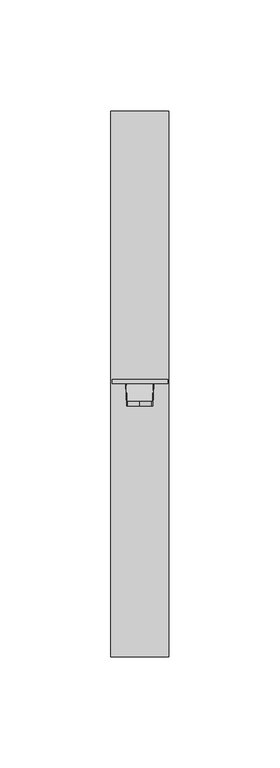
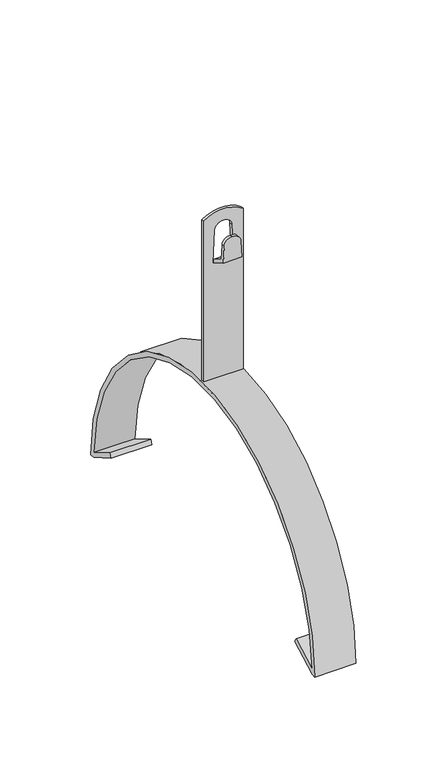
"""IFC4 building model written with IfcOpenShell, lengths in millimetres: proxy geometry, КНС_ЗажимКоньковыйРегулируемый_DKC : ND2203CU_Медь_Увеличенный."""

import ifcopenshell
import ifcopenshell.guid

model = None  # the IFC model being written
_history = None  # IfcOwnerHistory: only IFC2X3 demands one
_inside = {}  # id of a spatial element -> (the spatial element, [elements in it])
_under = {}  # id of a project, library or spatial element -> (it, [spatial elements below it])
_declared = {}  # id of a project -> (the project, [libraries it declares])
_typed = {}  # id of a type object -> (the type object, [elements of that type])
_made_of = {}  # id of a material, layer set ... -> (it, [elements and type objects made of it])


def new_model(schema):
    """Start an empty IFC model of exactly this schema.

    Asked for "IFC4X3", IfcOpenShell would pick the latest addendum, in which some entities
    have other attributes; the version numbers below select the first issue.
    IFC2X3 requires an IfcOwnerHistory on every rooted entity: one is made here for all.
    """
    global model, _history
    if schema == "IFC4X3":
        model = ifcopenshell.file(schema_version=(4, 3, 0, 0))
    else:
        model = ifcopenshell.file(schema=schema)
    _inside.clear()
    _under.clear()
    _declared.clear()
    _typed.clear()
    _made_of.clear()
    _history = None
    if model.schema == "IFC2X3":
        org = make("IfcOrganization", Name="unknown")
        user = make(
            "IfcPersonAndOrganization",
            ThePerson=make("IfcPerson", FamilyName="unknown"),
            TheOrganization=org,
        )
        app = make(
            "IfcApplication",
            ApplicationDeveloper=org,
            Version="unknown",
            ApplicationFullName="unknown",
            ApplicationIdentifier="unknown",
        )
        _history = make(
            "IfcOwnerHistory",
            OwningUser=user,
            OwningApplication=app,
            ChangeAction="ADDED",
            CreationDate=0,
        )
    return model


def make(cls, **values):
    """One entity of the class cls with the attributes given. An attribute that is None is left unset."""
    return model.create_entity(
        cls, **{name: value for name, value in values.items() if value is not None}
    )


def rooted(cls, **values):
    """An entity with a GlobalId (a new one), such as an element, a storey or a relation."""
    return make(cls, GlobalId=ifcopenshell.guid.new(), OwnerHistory=_history, **values)


def si_unit(unit_type, name, prefix=None):
    """IfcSIUnit, for example si_unit("LENGTHUNIT", "METRE", prefix="MILLI")."""
    return make("IfcSIUnit", UnitType=unit_type, Prefix=prefix, Name=name)


def assignment(units):
    """IfcUnitAssignment: the units of a project."""
    return None if units is None else make("IfcUnitAssignment", Units=units)


def point(xyz):
    """IfcCartesianPoint."""
    return None if xyz is None else make("IfcCartesianPoint", Coordinates=xyz)


def direction(xyz):
    """IfcDirection."""
    return None if xyz is None else make("IfcDirection", DirectionRatios=xyz)


def frame(location, z_axis=None, x_axis=None):
    """IfcAxis2Placement3D, a coordinate frame: its origin and axes. An axis left out is left unset."""
    return make(
        "IfcAxis2Placement3D",
        Location=point(location),
        Axis=direction(z_axis),
        RefDirection=direction(x_axis),
    )


def frame_2d(location, x_axis=None):
    """IfcAxis2Placement2D, a coordinate frame in the plane: its origin and x axis."""
    return make(
        "IfcAxis2Placement2D", Location=point(location), RefDirection=direction(x_axis)
    )


def origin():
    """The frame at (0, 0, 0) with its axes left unset."""
    return frame((0.0, 0.0, 0.0))


def place(relative_to, where):
    """IfcLocalPlacement: puts the frame where relative to a parent placement (None: the world)."""
    return make(
        "IfcLocalPlacement", PlacementRelTo=relative_to, RelativePlacement=where
    )


def context(
    kind, dimensions, precision=None, world=None, true_north=None, identifier=None
):
    """IfcGeometricRepresentationContext, for example the 3D "Model" context."""
    return make(
        "IfcGeometricRepresentationContext",
        ContextIdentifier=identifier,
        ContextType=kind,
        CoordinateSpaceDimension=dimensions,
        Precision=precision,
        WorldCoordinateSystem=world,
        TrueNorth=true_north,
    )


def project(units=None, contexts=None):
    """IfcProject with its units and contexts."""
    return rooted(
        "IfcProject",
        Name="project",
        RepresentationContexts=contexts,
        UnitsInContext=assignment(units),
    )


def spatial(cls, under=None, at=None, **own):
    """A site, building, storey or space (cls), placed at a placement, below another one or the project."""
    s = rooted(cls, ObjectPlacement=at, **own)
    if under is not None:
        _under.setdefault(under.id(), (under, []))[1].append(s)
    return s


def polyline(points):
    """IfcPolyline through the points."""
    return make("IfcPolyline", Points=[point(p) for p in points])


def circle_curve(where, radius):
    """IfcCircle in the frame where."""
    return make("IfcCircle", Position=where, Radius=radius)


def trimmed(basis, trim1, trim2, sense, master):
    """IfcTrimmedCurve: the piece of a basis curve between two trims."""
    return make(
        "IfcTrimmedCurve",
        BasisCurve=basis,
        Trim1=trim1,
        Trim2=trim2,
        SenseAgreement=sense,
        MasterRepresentation=master,
    )


def segment(curve, same_sense, transition):
    """IfcCompositeCurveSegment."""
    return make(
        "IfcCompositeCurveSegment",
        Transition=transition,
        SameSense=same_sense,
        ParentCurve=curve,
    )


def composite_curve(segments, self_intersect=None):
    """IfcCompositeCurve: segments joined end to end."""
    return make("IfcCompositeCurve", Segments=segments, SelfIntersect=self_intersect)


def outline(outer, holes=None, kind="AREA"):
    """IfcArbitraryClosedProfileDef: a profile drawn as a closed curve; with holes, ...WithVoids."""
    if holes is None:
        return make("IfcArbitraryClosedProfileDef", ProfileType=kind, OuterCurve=outer)
    return make(
        "IfcArbitraryProfileDefWithVoids",
        ProfileType=kind,
        OuterCurve=outer,
        InnerCurves=holes,
    )


def extrude(swept, where, along, depth):
    """IfcExtrudedAreaSolid: the profile swept, set in the frame where, extruded along a direction by depth."""
    return make(
        "IfcExtrudedAreaSolid",
        SweptArea=swept,
        Position=where,
        ExtrudedDirection=direction(along),
        Depth=depth,
    )


def shape(context_of_items, identifier, shape_type, items):
    """IfcShapeRepresentation: the items that make up one representation, for example the "Body"."""
    return make(
        "IfcShapeRepresentation",
        ContextOfItems=context_of_items,
        RepresentationIdentifier=identifier,
        RepresentationType=shape_type,
        Items=items,
    )


def source(mapping_origin, context_of_items, identifier, shape_type, items):
    """IfcRepresentationMap: a shape defined once, which mapped items show again and again."""
    return make(
        "IfcRepresentationMap",
        MappingOrigin=mapping_origin,
        MappedRepresentation=shape(context_of_items, identifier, shape_type, items),
    )


def transform(
    local_origin,
    x_axis=None,
    y_axis=None,
    z_axis=None,
    scale=None,
    scale2=None,
    scale3=None,
    uniform=True,
):
    """IfcCartesianTransformationOperator3D, or its non-uniform kind. x_axis, y_axis, z_axis: its Axis1, 2, 3."""
    if uniform:
        return make(
            "IfcCartesianTransformationOperator3D",
            Axis1=direction(x_axis),
            Axis2=direction(y_axis),
            LocalOrigin=point(local_origin),
            Scale=scale,
            Axis3=direction(z_axis),
        )
    return make(
        "IfcCartesianTransformationOperator3DnonUniform",
        Axis1=direction(x_axis),
        Axis2=direction(y_axis),
        LocalOrigin=point(local_origin),
        Scale=scale,
        Axis3=direction(z_axis),
        Scale2=scale2,
        Scale3=scale3,
    )


def mapped(mapping_source, mapping_target):
    """IfcMappedItem: shows the shape of a source again, moved by a transform."""
    return make(
        "IfcMappedItem", MappingSource=mapping_source, MappingTarget=mapping_target
    )


def made_of(thing, what):
    """Note that an element or type object is made of a material, layer set ...; save() writes the relation."""
    if what is not None:
        _made_of.setdefault(what.id(), (what, []))[1].append(thing)
    return thing


def element(
    cls,
    number,
    at=None,
    inside=None,
    cuts=None,
    type_object=None,
    material=None,
    context=None,
    identifier="Body",
    shape_type=None,
    held_by="IfcProductDefinitionShape",
    body=None,
    shapes=None,
    **own,
):
    """One element of the class cls, such as IfcWall. Its Tag is "e" and its number.

    at: its placement. inside: the storey or other place that contains it. cuts: it is an
    opening in that element (IfcRelVoidsElement). A single representation is given by context,
    identifier, shape_type and body (its items); several are given by shapes. held_by: the class
    of the entity that holds the representations. save() writes the other relations.
    """
    e = rooted(cls, Tag="e%d" % number, ObjectPlacement=at, **own)
    if body is not None:
        shapes = [shape(context, identifier, shape_type, body)]
    if shapes is not None:
        e.Representation = make(held_by, Representations=shapes)
    if inside is not None:
        _inside.setdefault(inside.id(), (inside, []))[1].append(e)
    if cuts is not None:
        rooted(
            "IfcRelVoidsElement", RelatingBuildingElement=cuts, RelatedOpeningElement=e
        )
    if type_object is not None:
        _typed.setdefault(type_object.id(), (type_object, []))[1].append(e)
    return made_of(e, material)


def aggregate(whole, parts):
    """IfcRelAggregates: a whole, such as a stair, and the parts it consists of."""
    return rooted("IfcRelAggregates", RelatingObject=whole, RelatedObjects=parts)


def save(model, path):
    """Write the relations noted so far, then the file.

    IfcRelAggregates (storeys below a building ...), IfcRelContainedInSpatialStructure (elements
    in a storey), IfcRelDefinesByType, IfcRelAssociatesMaterial and IfcRelDeclares: one each for
    every whole, place, type object, material and project.
    """
    for whole, parts in _under.values():
        aggregate(whole, parts)
    for where, things in _inside.values():
        rooted(
            "IfcRelContainedInSpatialStructure",
            RelatedElements=things,
            RelatingStructure=where,
        )
    for kind, things in _typed.values():
        rooted("IfcRelDefinesByType", RelatedObjects=things, RelatingType=kind)
    for what, things in _made_of.values():
        rooted("IfcRelAssociatesMaterial", RelatedObjects=things, RelatingMaterial=what)
    for by, libraries in _declared.values():
        rooted("IfcRelDeclares", RelatingContext=by, RelatedDefinitions=libraries)
    model.write(path)


def plane_surface(at):
    """IfcPlane: the flat surface through the origin of the frame at, square to its z axis."""
    return make("IfcPlane", Position=at)


def cylinder_surface(at, radius):
    """IfcCylindricalSurface: all points at the distance radius from the z axis of the frame at."""
    return make("IfcCylindricalSurface", Position=at, Radius=radius)


def advanced_brep(points, edges, surfaces, faces):
    """IfcAdvancedBrep: a solid bounded by faces that lie on surfaces and meet in shared edges.

    An edge is (start, end): straight between two places in points (the first is 0);
    or (start, end, curve); or (start, end, curve, False) where it runs against its curve.
    A face is (place in surfaces, loops), or (place, loops, False) where it looks against
    its surface's normal. A loop lists edges by number (the first is 1), with a minus sign
    where the edge is run from its end to its start. The first loop is the outer one.
    """
    corners = [point(p) for p in points]
    vertices = [make("IfcVertexPoint", VertexGeometry=c) for c in corners]
    made = []
    for start, end, *more in edges:
        made.append(
            make(
                "IfcEdgeCurve",
                EdgeStart=vertices[start],
                EdgeEnd=vertices[end],
                EdgeGeometry=more[0] if more else make("IfcPolyline", Points=[corners[start], corners[end]]),
                SameSense=more[1] if len(more) > 1 else True,
            )
        )
    hull = []
    for where, loops, *sense in faces:
        bounds = []
        for j, loop in enumerate(loops):
            ring = [make("IfcOrientedEdge", EdgeElement=made[abs(k) - 1], Orientation=k > 0) for k in loop]
            bounds.append(
                make(
                    "IfcFaceOuterBound" if j == 0 else "IfcFaceBound",
                    Bound=make("IfcEdgeLoop", EdgeList=ring),
                    Orientation=True,
                )
            )
        hull.append(make("IfcAdvancedFace", Bounds=bounds, FaceSurface=surfaces[where], SameSense=sense[0] if sense else True))
    return make("IfcAdvancedBrep", Outer=make("IfcClosedShell", CfsFaces=hull))


def security_devices_74660835(model_context):
    return source(origin(), model_context, "Body", "SolidModel", [
        extrude(outline(composite_curve([segment(trimmed(circle_curve(frame_2d((10.0, -120.0)), 123.0), [point((-113.0, -120.0))], [point((133.0, -120.0))], False, "CARTESIAN"), True, "CONTINUOUS"), segment(polyline([(133.0, -120.0), (130.0, -120.0), (111.0740989, -109.0731259), (112.5740989, -106.4750497), (129.9491379, -116.5065332)]), True, "CONTINUOUS"), segment(trimmed(circle_curve(frame_2d((10.0, -120.0)), 120.0), [point((129.9491379, -116.5065332))], [point((-109.9494855, -116.5184891))], True, "CARTESIAN"), True, "CONTINUOUS"), segment(polyline([(-109.9494855, -116.5184891), (-92.6289775, -106.5184891), (-91.1340676, -109.1077489), (-110.0, -120.0), (-113.0, -120.0)]), True, "CONTINUOUS")], self_intersect=False)), frame((-13.0, 0.0, 0.0), z_axis=(1.0, 0.0, 0.0), x_axis=(0.0, 1.0, 0.0)), (0.0, 0.0, 1.0), 26.0),
        advanced_brep(
        [(5.3645288, 0.0, 97.6660817), (0.0, 0.0, 102.1674559), (-5.3645288, 0.0, 97.6660817), (-5.9353846, 0.0, 86.7735027), (5.9353846, 0.0, 86.7735027), (6.2379611, 10.0, 81.0), (-6.2379611, 10.0, 81.0), (-6.1169305, 10.0, 83.3094011), (6.1169305, 10.0, 83.3094011), (-5.3645288, 2.0, 97.6660817), (-5.8748694, 2.0, 87.9282032), (5.8748694, 2.0, 87.9282032), (5.3645288, 2.0, 97.6660817), (0.0, 2.0, 102.1674559)],
        [
            (0, 1, circle_curve(frame((0.5834648, 0.0, 97.4155168), z_axis=(0.0, -1.0, 0.0), x_axis=(1.0, 0.0, 0.0)), 4.7876253)),
            (1, 2, circle_curve(frame((-0.5834648, 0.0, 97.4155168), z_axis=(0.0, -1.0, 0.0), x_axis=(1.0, 0.0, 0.0)), 4.7876253)),
            (2, 3),
            (3, 4),
            (4, 0),
            (5, 6),
            (6, 7),
            (7, 8),
            (8, 5),
            (2, 9),
            (9, 10),
            (10, 7),
            (6, 3),
            (4, 5),
            (8, 11),
            (11, 12),
            (12, 0),
            (12, 13, circle_curve(frame((0.5834648, 2.0, 97.4155168), z_axis=(0.0, -1.0, 0.0), x_axis=(1.0, 0.0, 0.0)), 4.7876253)),
            (13, 1),
            (13, 9, circle_curve(frame((-0.5834648, 2.0, 97.4155168), z_axis=(0.0, -1.0, 0.0), x_axis=(1.0, 0.0, 0.0)), 4.7876253)),
            (10, 11),
        ],
        [
            plane_surface(frame((-6.2379611, 0.0, 81.0), z_axis=(0.0, -1.0, 0.0), x_axis=(-0.05233595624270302, 0.0, -0.9986295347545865))),
            plane_surface(frame((-6.2379611, 10.0, 81.0), z_axis=(0.0, 1.0, 0.0), x_axis=(0.05233595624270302, 0.0, 0.9986295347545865))),
            plane_surface(frame((-5.3645288, 0.0, 97.6660817), z_axis=(-0.9986295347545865, 0.0, 0.05233595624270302), x_axis=(0.0, 1.0, 0.0))),
            plane_surface(frame((6.2379611, 0.0, 81.0), z_axis=(0.9986295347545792, 0.0, 0.052335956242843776), x_axis=(0.0, 1.0, 0.0))),
            cylinder_surface(frame((0.5834648, 10.0, 97.4155168), z_axis=(0.0, -1.0, 0.0), x_axis=(1.0, 0.0, 0.0)), 4.7876253),
            cylinder_surface(frame((-0.5834648, 10.0, 97.4155168), z_axis=(0.0, -1.0, 0.0), x_axis=(1.0, 0.0, 0.0)), 4.7876253),
            plane_surface(frame((12.5, 10.0, 81.0), z_axis=(0.0, -0.5000000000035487, -0.8660254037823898), x_axis=(-1.0, 0.0, 0.0))),
            plane_surface(frame((12.5, 2.0, 87.9282032), z_axis=(0.0, 0.49999999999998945, 0.8660254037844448), x_axis=(-1.0, 0.0, 0.0))),
            plane_surface(frame((12.5, 2.0, 112.9372685), z_axis=(0.0, 1.0, 0.0), x_axis=(-1.0, 0.0, 0.0))),
        ],
        [
            (0, [[1, 2, 3, 4, 5]]),
            (1, [[6, 7, 8, 9]]),
            (2, [[-3, 10, 11, 12, -7, 13]]),
            (3, [[-5, 14, -9, 15, 16, 17]]),
            (4, [[-1, -17, 18, 19]]),
            (5, [[-2, -19, 20, -10]]),
            (6, [[-4, -13, -6, -14]]),
            (7, [[21, -15, -8, -12]]),
            (8, [[-21, -11, -20, -18, -16]]),
        ],
    ),
        extrude(outline(composite_curve([segment(polyline([(110.874537, -12.5), (0.0, -12.5), (0.0, 12.5), (110.874537, 12.5)]), True, "CONTINUOUS"), segment(trimmed(circle_curve(frame_2d((94.0, 0.0)), 21.0), [point((110.874537, 12.5))], [point((110.874537, -12.5))], False, "CARTESIAN"), True, "CONTINUOUS")], self_intersect=False), holes=[composite_curve([segment(trimmed(circle_curve(frame_2d((102.4155168, -0.5834648)), 4.7876253), [point((102.6660817, -5.3645288))], [point((107.1674559, 0.0))], True, "CARTESIAN"), True, "CONTINUOUS"), segment(trimmed(circle_curve(frame_2d((102.4155168, 0.5834648)), 4.7876253), [point((107.1674559, 0.0))], [point((102.6660817, 5.3645288))], True, "CARTESIAN"), True, "CONTINUOUS"), segment(polyline([(102.6660817, 5.3645288), (81.0, 6.5), (81.0, -6.5), (102.6660817, -5.3645288)]), True, "CONTINUOUS")], self_intersect=False)]), frame((0.0, 10.0, 0.0), z_axis=(0.0, 1.0, 0.0), x_axis=(0.0, 0.0, 1.0)), (0.0, 0.0, 1.0), 2.0),
    ])


if __name__ == "__main__":
    model = new_model("IFC4")
    model_context = context("Model", 3, world=origin())
    ifc_project = project(units=[si_unit("LENGTHUNIT", "METRE", prefix="MILLI")], contexts=[model_context])
    site = spatial("IfcSite", under=ifc_project)
    building = spatial("IfcBuilding", under=site)
    placement = place(None, origin())
    security_devices_shape = security_devices_74660835(model_context)
    element("IfcBuildingElementProxy", 1, Name="КНС_ЗажимКоньковыйРегулируемый_DKC : ND2203CU_Медь_Увеличенный", ObjectType="КНС_ЗажимКоньковыйРегулируемый_DKC : ND2203CU_Медь_Увеличенный", at=placement, inside=building, context=model_context, shape_type="MappedRepresentation", body=[
        mapped(security_devices_shape, transform((0.0, 0.0, 0.0), x_axis=(1.0, 0.0, 0.0), y_axis=(0.0, 1.0, 0.0), z_axis=(0.0, 0.0, 1.0))),
    ])
    save(model, "model.ifc")
